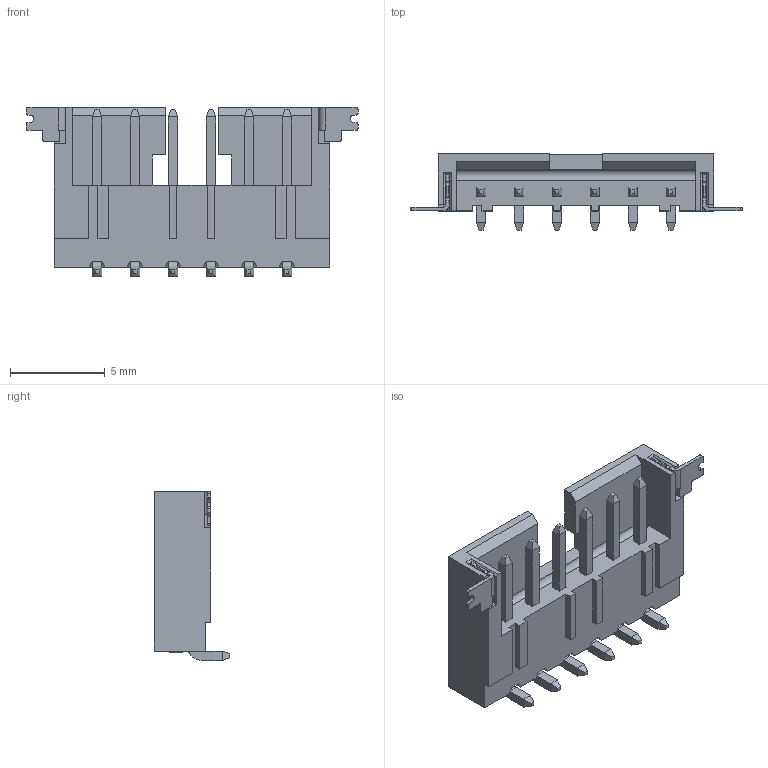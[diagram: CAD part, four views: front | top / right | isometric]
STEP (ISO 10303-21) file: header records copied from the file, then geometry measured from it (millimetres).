
FILE_DESCRIPTION((''),'2;1');
FILE_NAME('S-50302-006XX-004','2012-01-12T',('12236126'),(''),'PRO/ENGINEER BY PARAMETRIC TECHNOLOGY CORPORATION, 2009360','PRO/ENGINEER BY PARAMETRIC TECHNOLOGY CORPORATION, 2009360','');
FILE_SCHEMA(('CONFIG_CONTROL_DESIGN'));
Length unit declared in the file: millimetre
Products named in the file (1): S-50302-006XX-004
Bounding box: 17.48 x 4 x 8.9 mm (x, y, z)
Volume: 216.6 mm3; surface area: 679.2 mm2
Topology: 1 solids, 1 shells, 514 faces, 1606 edges, 1012 vertices
Faces by surface type: plane 349, cylinder 165
Entity records: 17838 total; most frequent: ORIENTED_EDGE 3212, CARTESIAN_POINT 3154, DIRECTION 2958, EDGE_CURVE 1606, VECTOR 1266, LINE 1266, VERTEX_POINT 1012, AXIS2_PLACEMENT_3D 846
